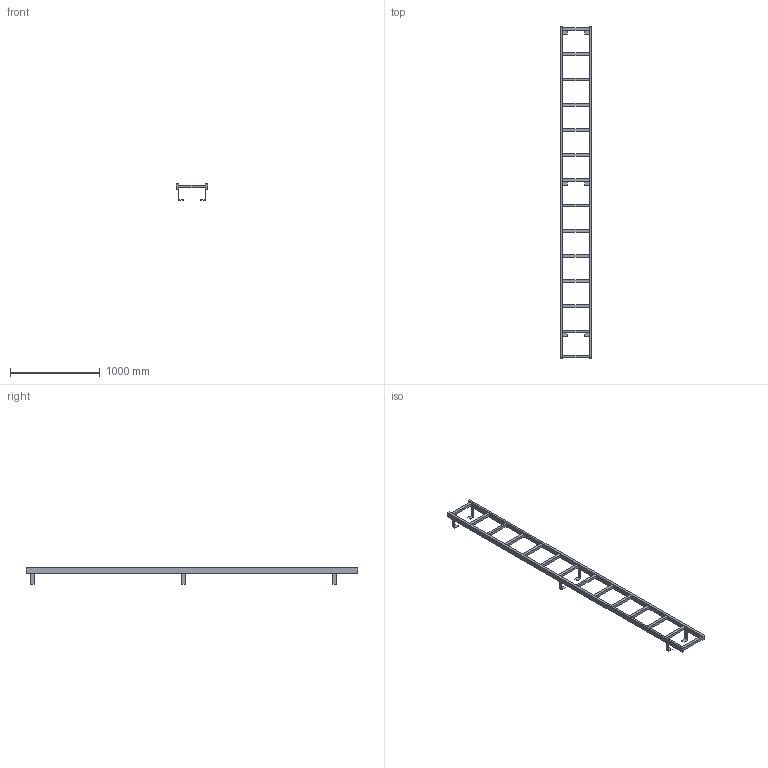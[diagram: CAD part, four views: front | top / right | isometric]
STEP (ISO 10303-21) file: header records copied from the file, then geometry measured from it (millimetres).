
FILE_DESCRIPTION((''),'2;1');
FILE_NAME('52311126','2024-10-17T13:24:18',('wep'),('HUBER SE'),'CREO PARAMETRIC BY PTC INC, 2022162','CREO PARAMETRIC BY PTC INC, 2022162','');
FILE_SCHEMA(('AUTOMOTIVE_DESIGN { 1 0 10303 214 1 1 1 1 }'));
Length unit declared in the file: millimetre
Products named in the file (1): 52311126
Bounding box: 350 x 3690 x 178.5 mm (x, y, z)
Volume: 14393940 mm3; surface area: 1784052 mm2
Topology: 1 solids, 1 shells, 114 faces, 336 edges, 218 vertices
Faces by surface type: plane 114
Entity records: 4317 total; most frequent: ORIENTED_EDGE 672, CARTESIAN_POINT 670, DIRECTION 564, VECTOR 336, LINE 336, EDGE_CURVE 336, VERTEX_POINT 218, EDGE_LOOP 134
